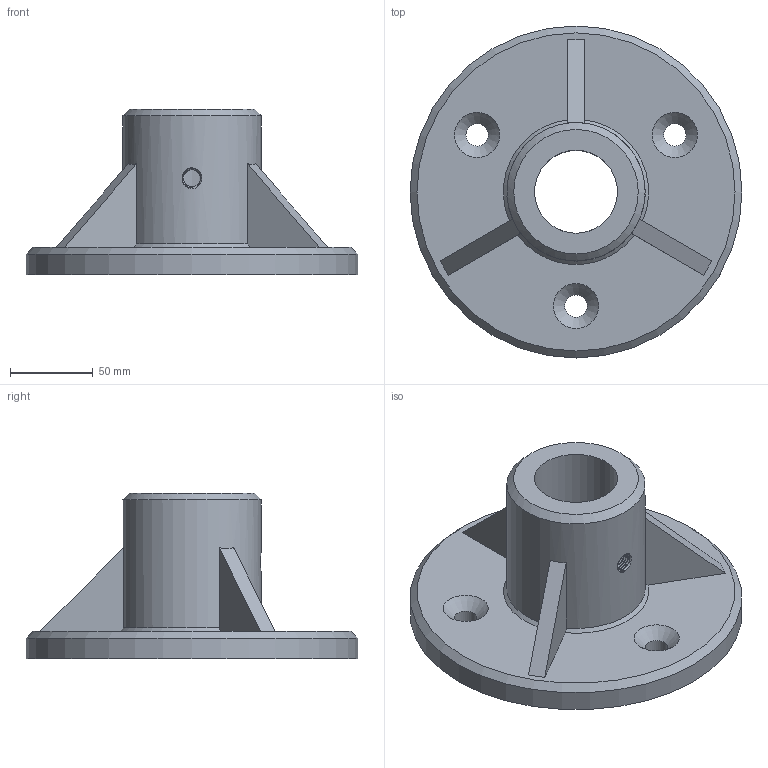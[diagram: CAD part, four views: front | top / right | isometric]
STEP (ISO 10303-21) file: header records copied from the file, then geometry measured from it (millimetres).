
FILE_DESCRIPTION(/* description */ (''),/* implementation_level */ '2;1');
FILE_NAME(/* name */ '50MM_M12.stp',/* time_stamp */ '2024-11-18T16:30:00+01:00',/* author */ (''),/* organization */ (''),/* preprocessor_version */ 'ST-DEVELOPER v20',/* originating_system */ 'SIEMENS PLM Software NX2406.4001',/* authorisation */ '');
FILE_SCHEMA (('AUTOMOTIVE_DESIGN { 1 0 10303 214 3 1 1 1 }'));
Length unit declared in the file: millimetre
Products named in the file (1): 50MM_M12
Bounding box: 200 x 200 x 100 mm (x, y, z)
Volume: 799532.3 mm3; surface area: 112511.2 mm2
Topology: 1 solids, 1 shells, 42 faces, 110 edges, 71 vertices
Faces by surface type: plane 14, cylinder 13, cone 13, bspline 2
Full cylindrical faces by diameter (mm): 10.3 x5, 13.5 x3, 50 x1, 83.333 x1, 200 x1
Entity records: 1809 total; most frequent: CARTESIAN_POINT 978, DIRECTION 159, ORIENTED_EDGE 146, EDGE_CURVE 73, AXIS2_PLACEMENT_3D 67, EDGE_LOOP 65, VERTEX_POINT 56, FACE_BOUND 48
